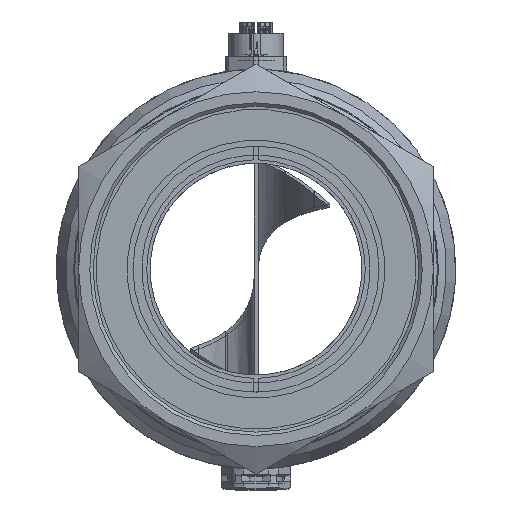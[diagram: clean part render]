
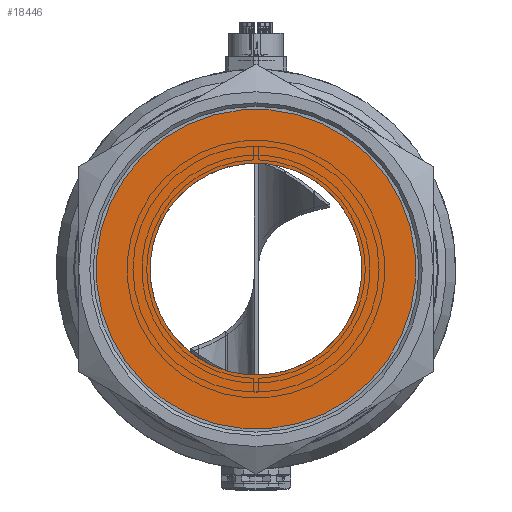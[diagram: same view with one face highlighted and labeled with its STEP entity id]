
A CAD part, left-side view. The second image highlights one B-rep face of the part: STEP entity #18446.
In plain terms, the highlighted planar face has unit normal (-1, 0, 0).
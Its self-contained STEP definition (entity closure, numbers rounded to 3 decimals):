
#336=FACE_BOUND('',#3142,.T.);
#499=CIRCLE('',#19535,26.);
#502=CIRCLE('',#19539,39.2);
#2079=FACE_OUTER_BOUND('',#3141,.T.);
#3141=EDGE_LOOP('',(#11673));
#3142=EDGE_LOOP('',(#11674));
#7127=VERTEX_POINT('',#26617);
#7130=VERTEX_POINT('',#26625);
#8905=EDGE_CURVE('',#7127,#7127,#499,.T.);
#8910=EDGE_CURVE('',#7130,#7130,#502,.T.);
#11673=ORIENTED_EDGE('',*,*,#8910,.T.);
#11674=ORIENTED_EDGE('',*,*,#8905,.F.);
#16847=PLANE('',#19548);
#18446=ADVANCED_FACE('',(#2079,#336),#16847,.T.);
#19535=AXIS2_PLACEMENT_3D('',#26618,#21412,#21413);
#19539=AXIS2_PLACEMENT_3D('',#26627,#21422,#21423);
#19548=AXIS2_PLACEMENT_3D('',#26641,#21442,#21443);
#21412=DIRECTION('center_axis',(-1.,0.,0.));
#21413=DIRECTION('ref_axis',(0.,0.904,-0.428));
#21422=DIRECTION('center_axis',(-1.,0.,0.));
#21423=DIRECTION('ref_axis',(0.,0.904,-0.428));
#21442=DIRECTION('center_axis',(-1.,0.,0.));
#21443=DIRECTION('ref_axis',(0.,0.904,-0.428));
#26617=CARTESIAN_POINT('',(-800.6,-23.499,11.127));
#26618=CARTESIAN_POINT('Origin',(-800.6,0.,
0.));
#26625=CARTESIAN_POINT('',(-800.6,-35.429,16.776));
#26627=CARTESIAN_POINT('Origin',(-800.6,0.,
0.));
#26641=CARTESIAN_POINT('Origin',(-800.6,29.464,-13.951));
